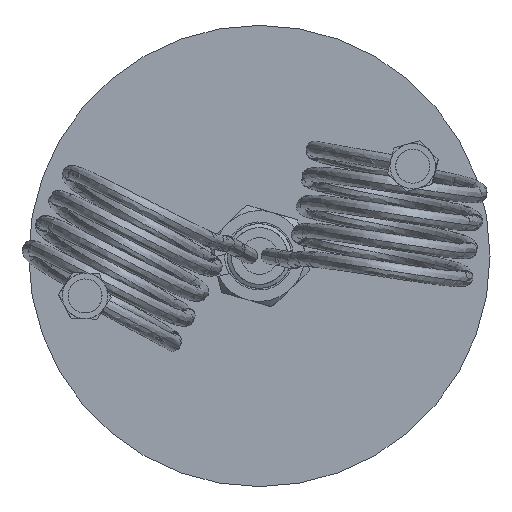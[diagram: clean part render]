
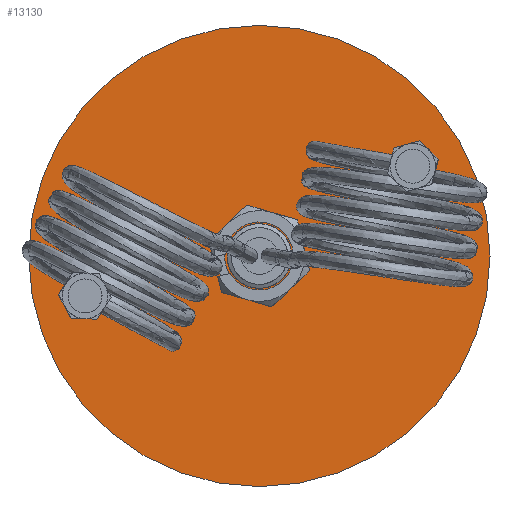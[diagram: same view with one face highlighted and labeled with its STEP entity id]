
A CAD part, front view. The second image highlights one B-rep face of the part: STEP entity #13130.
In plain terms, the highlighted planar face has unit normal (0, -1, 0).
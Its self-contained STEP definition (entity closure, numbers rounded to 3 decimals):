
#382 = DIRECTION ( 'NONE',  ( 0., 0., 1. ) ) ;
#969 = CARTESIAN_POINT ( 'NONE',  ( -4.278, 0., -3.191 ) ) ;
#1464 = CARTESIAN_POINT ( 'NONE',  ( -5.388, 0., 1.755 ) ) ;
#1569 = CARTESIAN_POINT ( 'NONE',  ( 0., 0., 0. ) ) ;
#1643 = CARTESIAN_POINT ( 'NONE',  ( -5.48, 0., 1.328 ) ) ;
#1781 = PLANE ( 'NONE',  #19192 ) ;
#1783 = VERTEX_POINT ( 'NONE', #9522 ) ;
#2553 = DIRECTION ( 'NONE',  ( 0., 0., 1. ) ) ;
#2812 = ORIENTED_EDGE ( 'NONE', *, *, #31422, .F. ) ;
#3317 = B_SPLINE_CURVE_WITH_KNOTS ( 'NONE', 3,
 ( #25110, #14414, #27690, #14085 ),
 .UNSPECIFIED., .F., .F.,
 ( 4, 4 ),
 ( 0., 0.001 ),
 .UNSPECIFIED. ) ;
#4354 = CARTESIAN_POINT ( 'NONE',  ( 0., 0., 0. ) ) ;
#4368 = CARTESIAN_POINT ( 'NONE',  ( -5.244, 0., 2.172 ) ) ;
#4417 = CARTESIAN_POINT ( 'NONE',  ( -1.736, 0., -4.82 ) ) ;
#4577 = AXIS2_PLACEMENT_3D ( 'NONE', #4354, #12782, #30751 ) ;
#5536 = ORIENTED_EDGE ( 'NONE', *, *, #7335, .F. ) ;
#6383 = ORIENTED_EDGE ( 'NONE', *, *, #22042, .F. ) ;
#6483 = CARTESIAN_POINT ( 'NONE',  ( 0., 0., -5. ) ) ;
#6991 = CARTESIAN_POINT ( 'NONE',  ( -5.53, 0., -0.203 ) ) ;
#7078 = EDGE_CURVE ( 'NONE', #10449, #24874, #20522, .T. ) ;
#7335 = EDGE_CURVE ( 'NONE', #18286, #8812, #18342, .T. ) ;
#7421 = CARTESIAN_POINT ( 'NONE',  ( -4.045, 0., 2.939 ) ) ;
#7930 = VECTOR ( 'NONE', #17947, 1000. ) ;
#8812 = VERTEX_POINT ( 'NONE', #33608 ) ;
#8830 = DIRECTION ( 'NONE',  ( 0., 0., 1. ) ) ;
#8888 = CARTESIAN_POINT ( 'NONE',  ( -3.483, 0., -3.935 ) ) ;
#8988 = DIRECTION ( 'NONE',  ( 0., 1., 0. ) ) ;
#9522 = CARTESIAN_POINT ( 'NONE',  ( 0., 0., -40.65 ) ) ;
#9569 = CARTESIAN_POINT ( 'NONE',  ( -3.305, 0., -4.067 ) ) ;
#10017 = VERTEX_POINT ( 'NONE', #27837 ) ;
#10449 = VERTEX_POINT ( 'NONE', #7421 ) ;
#11493 = CARTESIAN_POINT ( 'NONE',  ( -3.982, 0., -3.511 ) ) ;
#12163 = CARTESIAN_POINT ( 'NONE',  ( -5.545, 0., 0.674 ) ) ;
#12258 = CIRCLE ( 'NONE', #4577, 5. ) ;
#12782 = DIRECTION ( 'NONE',  ( 0., -1., 0. ) ) ;
#13130 = ADVANCED_FACE ( 'NONE', ( #28360, #33538 ), #1781, .F. ) ;
#13598 = CARTESIAN_POINT ( 'NONE',  ( 0., 0., 0. ) ) ;
#13684 = DIRECTION ( 'NONE',  ( 0., -1., 0. ) ) ;
#14015 = CARTESIAN_POINT ( 'NONE',  ( 0., 0., 0. ) ) ;
#14085 = CARTESIAN_POINT ( 'NONE',  ( -5.244, 0., 2.172 ) ) ;
#14414 = CARTESIAN_POINT ( 'NONE',  ( -4.855, 0., 2.975 ) ) ;
#14591 = CARTESIAN_POINT ( 'NONE',  ( -2.354, 0., -4.601 ) ) ;
#14924 = CARTESIAN_POINT ( 'NONE',  ( -1.521, 0., -4.876 ) ) ;
#15655 = VERTEX_POINT ( 'NONE', #22757 ) ;
#16237 = ORIENTED_EDGE ( 'NONE', *, *, #29724, .F. ) ;
#16853 = CARTESIAN_POINT ( 'NONE',  ( -5.003, 0., -2.092 ) ) ;
#17038 = CIRCLE ( 'NONE', #25824, 40.65 ) ;
#17197 = CARTESIAN_POINT ( 'NONE',  ( -5.441, 0., -0.851 ) ) ;
#17538 = CARTESIAN_POINT ( 'NONE',  ( -2.746, 0., -4.413 ) ) ;
#17574 = AXIS2_PLACEMENT_3D ( 'NONE', #13598, #29138, #2553 ) ;
#17748 = CIRCLE ( 'NONE', #20496, 5. ) ;
#17947 = DIRECTION ( 'NONE',  ( -0.809, 0., 0.588 ) ) ;
#18286 = VERTEX_POINT ( 'NONE', #4368 ) ;
#18342 = B_SPLINE_CURVE_WITH_KNOTS ( 'NONE', 3,
 ( #30640, #1464, #1643, #12163, #19604, #22364, #6991, #17197, #22699, #16853, #33218, #969, #11493, #8888, #9569, #30137, #17538, #14591, #28051, #4417, #14924, #24933, #22026, #6483 ),
 .UNSPECIFIED., .F., .F.,
 ( 4, 2, 2, 2, 2, 2, 2, 2, 2, 2, 2, 4 ),
 ( 0., 0.001, 0.002, 0.003, 0.004, 0.005, 0.007, 0.007, 0.008, 0.009, 0.009, 0.01 ),
 .UNSPECIFIED. ) ;
#19192 = AXIS2_PLACEMENT_3D ( 'NONE', #23516, #31806, #382 ) ;
#19604 = CARTESIAN_POINT ( 'NONE',  ( -5.554, 0., 0.453 ) ) ;
#20011 = CARTESIAN_POINT ( 'NONE',  ( 0., 0., 0. ) ) ;
#20496 = AXIS2_PLACEMENT_3D ( 'NONE', #14015, #13684, #32482 ) ;
#20522 = LINE ( 'NONE', #20011, #7930 ) ;
#20709 = ORIENTED_EDGE ( 'NONE', *, *, #27587, .F. ) ;
#21118 = CARTESIAN_POINT ( 'NONE',  ( -4.592, 0., 3.337 ) ) ;
#21303 = EDGE_CURVE ( 'NONE', #10017, #1783, #32440, .T. ) ;
#22026 = CARTESIAN_POINT ( 'NONE',  ( -0.441, 0., -5.029 ) ) ;
#22042 = EDGE_CURVE ( 'NONE', #1783, #10017, #17038, .T. ) ;
#22364 = CARTESIAN_POINT ( 'NONE',  ( -5.546, 0., 0.015 ) ) ;
#22699 = CARTESIAN_POINT ( 'NONE',  ( -5.326, 0., -1.282 ) ) ;
#22757 = CARTESIAN_POINT ( 'NONE',  ( 0., 0., 5. ) ) ;
#23516 = CARTESIAN_POINT ( 'NONE',  ( 0., 0., 0. ) ) ;
#24188 = ORIENTED_EDGE ( 'NONE', *, *, #21303, .F. ) ;
#24874 = VERTEX_POINT ( 'NONE', #21118 ) ;
#24933 = CARTESIAN_POINT ( 'NONE',  ( -0.876, 0., -5.001 ) ) ;
#25110 = CARTESIAN_POINT ( 'NONE',  ( -4.592, 0., 3.337 ) ) ;
#25824 = AXIS2_PLACEMENT_3D ( 'NONE', #1569, #8988, #8830 ) ;
#27509 = ORIENTED_EDGE ( 'NONE', *, *, #7078, .F. ) ;
#27587 = EDGE_CURVE ( 'NONE', #8812, #15655, #17748, .T. ) ;
#27690 = CARTESIAN_POINT ( 'NONE',  ( -5.074, 0., 2.585 ) ) ;
#27783 = EDGE_LOOP ( 'NONE', ( #6383, #24188 ) ) ;
#27837 = CARTESIAN_POINT ( 'NONE',  ( 0., 0., 40.65 ) ) ;
#28051 = CARTESIAN_POINT ( 'NONE',  ( -2.152, 0., -4.683 ) ) ;
#28360 = FACE_OUTER_BOUND ( 'NONE', #27783, .T. ) ;
#29020 = EDGE_LOOP ( 'NONE', ( #27509, #16237, #20709, #5536, #2812 ) ) ;
#29138 = DIRECTION ( 'NONE',  ( 0., 1., 0. ) ) ;
#29724 = EDGE_CURVE ( 'NONE', #15655, #10449, #12258, .T. ) ;
#30137 = CARTESIAN_POINT ( 'NONE',  ( -2.937, 0., -4.306 ) ) ;
#30640 = CARTESIAN_POINT ( 'NONE',  ( -5.244, 0., 2.172 ) ) ;
#30751 = DIRECTION ( 'NONE',  ( 0., 0., 1. ) ) ;
#31422 = EDGE_CURVE ( 'NONE', #24874, #18286, #3317, .T. ) ;
#31806 = DIRECTION ( 'NONE',  ( 0., 1., 0. ) ) ;
#32440 = CIRCLE ( 'NONE', #17574, 40.65 ) ;
#32482 = DIRECTION ( 'NONE',  ( 0., 0., 1. ) ) ;
#33218 = CARTESIAN_POINT ( 'NONE',  ( -4.793, 0., -2.475 ) ) ;
#33538 = FACE_BOUND ( 'NONE', #29020, .T. ) ;
#33608 = CARTESIAN_POINT ( 'NONE',  ( 0., 0., -5. ) ) ;
